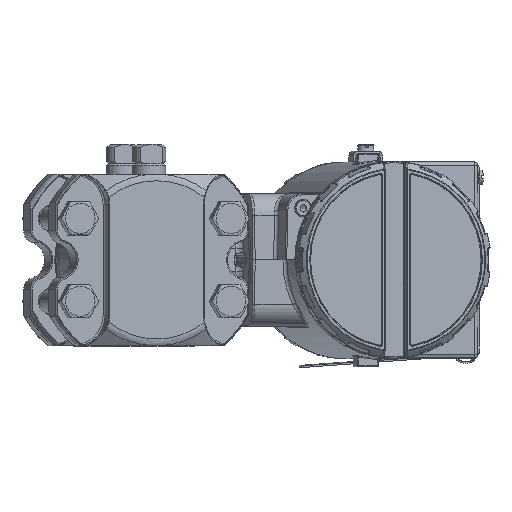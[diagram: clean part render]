
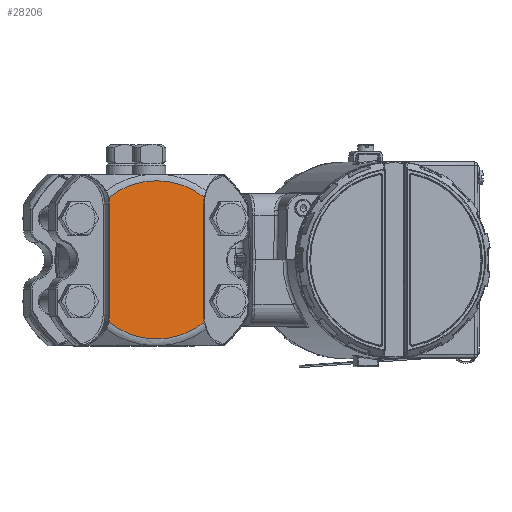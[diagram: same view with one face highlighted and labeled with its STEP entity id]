
A CAD part, top view. The second image highlights one B-rep face of the part: STEP entity #28206.
In plain terms, the highlighted planar face has unit normal (0.201, 0, 0.98) as drawn and (0, 0, 1) by its records, which use the part's own axes.
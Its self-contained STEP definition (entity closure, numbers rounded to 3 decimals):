
#1883=PLANE('',#30888);
#2463=FACE_OUTER_BOUND('',#4392,.T.);
#4392=EDGE_LOOP('',(#20036,#20037,#20038,#20039,#20040,#20041,#20042,#20043));
#6136=LINE('',#45377,#7165);
#6146=LINE('',#45754,#7175);
#7165=VECTOR('',#34788,10.);
#7175=VECTOR('',#34884,10.);
#8361=CIRCLE('',#30614,13.3);
#8365=CIRCLE('',#30620,13.3);
#8392=CIRCLE('',#30657,13.3);
#8396=CIRCLE('',#30663,13.3);
#8520=CIRCLE('',#30886,33.424);
#8522=CIRCLE('',#30889,33.424);
#11719=VERTEX_POINT('',#45357);
#11721=VERTEX_POINT('',#45369);
#11723=VERTEX_POINT('',#45375);
#11725=VERTEX_POINT('',#45381);
#11759=VERTEX_POINT('',#45734);
#11761=VERTEX_POINT('',#45746);
#11763=VERTEX_POINT('',#45752);
#11765=VERTEX_POINT('',#45758);
#14539=EDGE_CURVE('',#11721,#11719,#8361,.T.);
#14542=EDGE_CURVE('',#11723,#11721,#6136,.T.);
#14545=EDGE_CURVE('',#11725,#11723,#8365,.T.);
#14599=EDGE_CURVE('',#11761,#11759,#8392,.T.);
#14602=EDGE_CURVE('',#11763,#11761,#6146,.T.);
#14605=EDGE_CURVE('',#11765,#11763,#8396,.T.);
#14849=EDGE_CURVE('',#11765,#11719,#8520,.T.);
#14851=EDGE_CURVE('',#11725,#11759,#8522,.T.);
#20036=ORIENTED_EDGE('',*,*,#14545,.F.);
#20037=ORIENTED_EDGE('',*,*,#14851,.T.);
#20038=ORIENTED_EDGE('',*,*,#14599,.F.);
#20039=ORIENTED_EDGE('',*,*,#14602,.F.);
#20040=ORIENTED_EDGE('',*,*,#14605,.F.);
#20041=ORIENTED_EDGE('',*,*,#14849,.T.);
#20042=ORIENTED_EDGE('',*,*,#14539,.F.);
#20043=ORIENTED_EDGE('',*,*,#14542,.F.);
#28206=ADVANCED_FACE('',(#2463),#1883,.T.);
#30614=AXIS2_PLACEMENT_3D('',#45371,#34780,#34781);
#30620=AXIS2_PLACEMENT_3D('',#45383,#34794,#34795);
#30657=AXIS2_PLACEMENT_3D('',#45748,#34876,#34877);
#30663=AXIS2_PLACEMENT_3D('',#45760,#34890,#34891);
#30886=AXIS2_PLACEMENT_3D('',#46644,#35417,#35418);
#30888=AXIS2_PLACEMENT_3D('',#46646,#35421,#35422);
#30889=AXIS2_PLACEMENT_3D('',#46647,#35423,#35424);
#34780=DIRECTION('center_axis',(0.,0.,1.));
#34781=DIRECTION('ref_axis',(-0.104,0.995,0.));
#34788=DIRECTION('',(-1.,0.,0.));
#34794=DIRECTION('center_axis',(0.,0.,1.));
#34795=DIRECTION('ref_axis',(0.104,0.995,0.));
#34876=DIRECTION('center_axis',(0.,0.,1.));
#34877=DIRECTION('ref_axis',(0.104,-0.995,0.));
#34884=DIRECTION('',(1.,0.,0.));
#34890=DIRECTION('center_axis',(0.,0.,1.));
#34891=DIRECTION('ref_axis',(-0.104,-0.995,0.));
#35417=DIRECTION('center_axis',(0.,0.,1.));
#35418=DIRECTION('ref_axis',(1.,0.,0.));
#35421=DIRECTION('center_axis',(0.,0.,1.));
#35422=DIRECTION('ref_axis',(1.,0.,0.));
#35423=DIRECTION('center_axis',(0.,0.,1.));
#35424=DIRECTION('ref_axis',(1.,0.,0.));
#45357=CARTESIAN_POINT('',(-26.385,-20.517,31.5));
#45369=CARTESIAN_POINT('',(-23.5,-20.2,31.5));
#45371=CARTESIAN_POINT('Origin',(-23.5,-33.5,31.5));
#45375=CARTESIAN_POINT('',(23.5,-20.2,31.5));
#45377=CARTESIAN_POINT('',(-11.75,-20.2,31.5));
#45381=CARTESIAN_POINT('',(26.385,-20.517,31.5));
#45383=CARTESIAN_POINT('Origin',(23.5,-33.5,31.5));
#45734=CARTESIAN_POINT('',(26.385,20.517,31.5));
#45746=CARTESIAN_POINT('',(23.5,20.2,31.5));
#45748=CARTESIAN_POINT('Origin',(23.5,33.5,31.5));
#45752=CARTESIAN_POINT('',(-23.5,20.2,31.5));
#45754=CARTESIAN_POINT('',(11.75,20.2,31.5));
#45758=CARTESIAN_POINT('',(-26.385,20.517,31.5));
#45760=CARTESIAN_POINT('Origin',(-23.5,33.5,31.5));
#46644=CARTESIAN_POINT('Origin',(0.,0.,31.5));
#46646=CARTESIAN_POINT('Origin',(0.,0.,
31.5));
#46647=CARTESIAN_POINT('Origin',(0.,0.,31.5));
